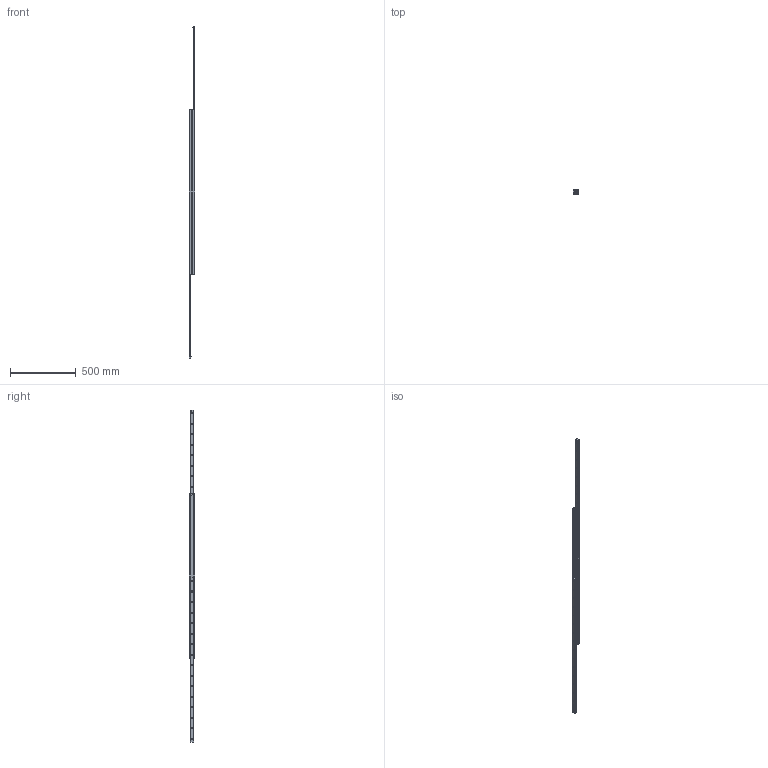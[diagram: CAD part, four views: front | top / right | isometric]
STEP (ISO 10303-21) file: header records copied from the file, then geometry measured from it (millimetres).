
FILE_DESCRIPTION( ( 'STEP AP214' ), '1' );
FILE_NAME( 'p:/temp/worker_84/temp/exporttempdir_3784_517_HBsU8/format_1/DEF43-12501276.stp', '2020-03-20T20:00:36', ( 'License CC BY-ND 4.0' ), ( 'CADENAS' ), ' ', 'PARTsolutions', ' ' );
FILE_SCHEMA( ( 'AUTOMOTIVE_DESIGN { 1 0 10303 214 1 1 1 1 }' ) );
Length unit declared in the file: millimetre
Products named in the file (4): DEF43-12501276; _43211250127612-gf; _4321125012761-ei; _43211250127611-gf
Assembly tree (4 placements, depth 2):
  DEF43-12501276
    _43211250127612-gf
    _4321125012761-ei  x2
    _43211250127611-gf
Bounding box: 44 x 43 x 2526 mm (x, y, z)
Volume: 1545108.2 mm3; surface area: 589138 mm2
Topology: 4 solids, 4 shells, 248 faces, 616 edges, 388 vertices
Faces by surface type: plane 102, cylinder 78, cone 68
Full cylindrical faces by diameter (mm): 4.134 x2, 6.647 x32, 7 x2
Entity records: 7180 total; most frequent: DIRECTION 996, CARTESIAN_POINT 901, ORIENTED_EDGE 782, AXIS2_PLACEMENT_3D 400, EDGE_CURVE 391, EDGE_LOOP 372, VERTEX_POINT 305, FACE_OUTER_BOUND 234
